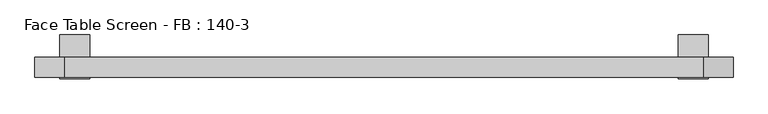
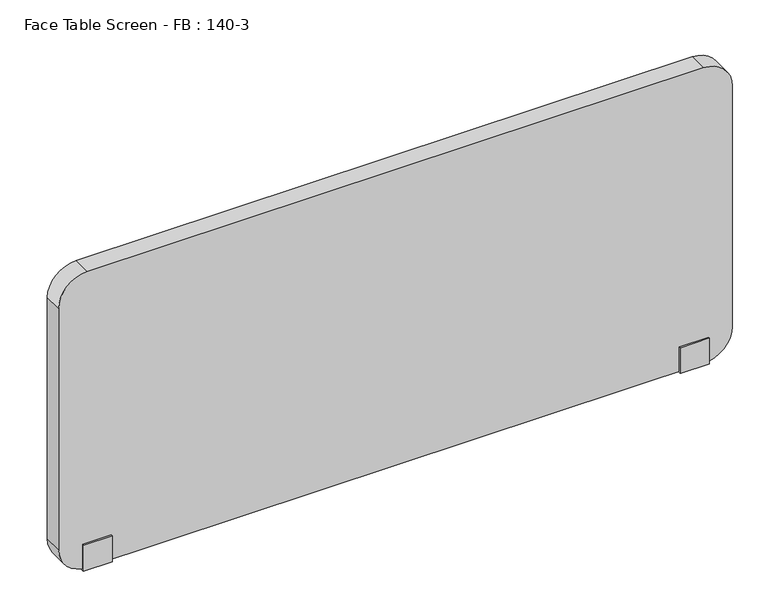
"""IFC4 building model written with IfcOpenShell, lengths in millimetres: furniture geometry, Face Table Screen - FB : 140-3."""

from ifc_helpers import new_model, si_unit, point, frame, frame_2d, origin, place, context, project, spatial, polyline, circle_curve, trimmed, segment, composite_curve, outline, extrude, source, transform, mapped, element, save


def face_table_screen_fb_140_3_574660a4(model_context):
    return source(origin(), model_context, "Body", "SweptSolid", [
        extrude(outline(polyline([(-42.9999947, -156.0), (-42.9999997, -99.0433898), (-40.0, -99.0433898), (-40.0, -153.0), (0.0, -153.0), (0.0, -22.0), (45.0, -22.0), (45.0, -25.0433898), (3.0000062, -25.0433898), (2.9999947, -156.0), (-42.9999947, -156.0)])), frame((609.9863751, 0.0, 0.0), z_axis=(1.0, 0.0, 0.0), x_axis=(0.0, 1.0, 0.0)), (0.0, 0.0, 1.0), 60.0),
        extrude(outline(polyline([(-42.9999947, -156.0), (-42.9999997, -99.0433898), (-40.0, -99.0433898), (-40.0, -153.0), (0.0, -153.0), (0.0, -22.0), (45.0, -22.0), (45.0, -25.0433898), (3.0000062, -25.0433898), (2.9999947, -156.0), (-42.9999947, -156.0)])), frame((-630.0136249, 0.0, 0.0), z_axis=(1.0, 0.0, 0.0), x_axis=(0.0, 1.0, 0.0)), (0.0, 0.0, 1.0), 60.0),
        extrude(outline(composite_curve([segment(polyline([(497.0, 659.9863751), (497.0, -620.0136249)]), True, "CONTINUOUS"), segment(trimmed(circle_curve(frame_2d((437.0, -620.0136249)), 60.0), [point((497.0, -620.0136249))], [point((437.0, -680.0136249))], False, "CARTESIAN"), True, "CONTINUOUS"), segment(polyline([(437.0, -680.0136249), (-93.0, -680.0136249)]), True, "CONTINUOUS"), segment(trimmed(circle_curve(frame_2d((-93.0, -620.0136249)), 60.0), [point((-93.0, -680.0136249))], [point((-153.0, -620.0136249))], False, "CARTESIAN"), True, "CONTINUOUS"), segment(polyline([(-153.0, -620.0136249), (-153.0, 659.9863751)]), True, "CONTINUOUS"), segment(trimmed(circle_curve(frame_2d((-93.0, 659.9863751)), 60.0), [point((-153.0, 659.9863751))], [point((-93.0, 719.9863751))], False, "CARTESIAN"), True, "CONTINUOUS"), segment(polyline([(-93.0, 719.9863751), (437.0, 719.9863751)]), True, "CONTINUOUS"), segment(trimmed(circle_curve(frame_2d((437.0, 659.9863751)), 60.0), [point((437.0, 719.9863751))], [point((497.0, 659.9863751))], False, "CARTESIAN"), True, "CONTINUOUS")], self_intersect=False)), frame((0.0, -40.0, 0.0), z_axis=(0.0, 1.0, 0.0), x_axis=(0.0, 0.0, 1.0)), (0.0, 0.0, 1.0), 40.0),
    ])


if __name__ == "__main__":
    model = new_model("IFC4")
    model_context = context("Model", 3, world=origin())
    ifc_project = project(units=[si_unit("LENGTHUNIT", "METRE", prefix="MILLI")], contexts=[model_context])
    site = spatial("IfcSite", under=ifc_project)
    building = spatial("IfcBuilding", under=site)
    placement = place(None, origin())
    face_table_screen_fb_140_3_shape = face_table_screen_fb_140_3_574660a4(model_context)
    element("IfcFurniture", 1, ObjectType="Face Table Screen - FB : 140-3", at=placement, inside=building, context=model_context, shape_type="MappedRepresentation", body=[
        mapped(face_table_screen_fb_140_3_shape, transform((0.0, 0.0, 0.0), x_axis=(1.0, 0.0, 0.0), y_axis=(0.0, 1.0, 0.0), z_axis=(0.0, 0.0, 1.0))),
    ])
    save(model, "model.ifc")
